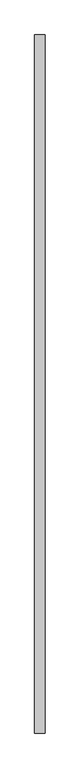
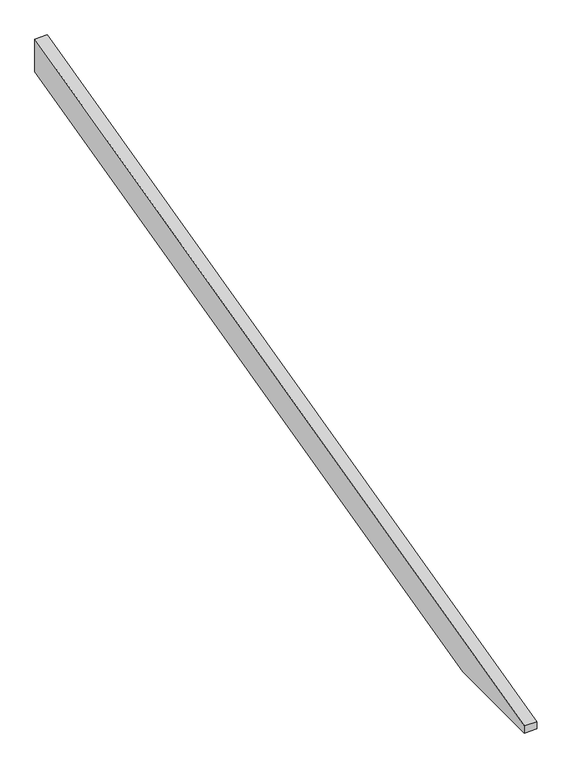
"""IFC4 building model written with IfcOpenShell, lengths in millimetres: proxy geometry, Modelos genéricos 149 : Modelos genéricos 12."""

from ifc_helpers import new_model, si_unit, frame, origin, place, context, project, spatial, polyline, outline, extrude, source, transform, mapped, element, save


def generic_models_f04222a2(model_context):
    return source(origin(), model_context, "Body", "SweptSolid", [
        extrude(outline(polyline([(-2181.3761835, 3197.4798401), (1878.6238165, 4209.7515316), (1878.6238165, 4044.8533509), (-1670.3291324, 3160.0), (-2181.3761835, 3160.0), (-2181.3761835, 3197.4798401)])), frame((12873.4472467, 0.0, 0.0), z_axis=(1.0, 0.0, 0.0), x_axis=(0.0, 1.0, 0.0)), (0.0, 0.0, 1.0), 60.0),
    ])


if __name__ == "__main__":
    model = new_model("IFC4")
    model_context = context("Model", 3, world=origin())
    ifc_project = project(units=[si_unit("LENGTHUNIT", "METRE", prefix="MILLI")], contexts=[model_context])
    site = spatial("IfcSite", under=ifc_project)
    building = spatial("IfcBuilding", under=site)
    placement = place(None, origin())
    generic_models_shape = generic_models_f04222a2(model_context)
    element("IfcBuildingElementProxy", 1, Name="Modelos genéricos 149 : Modelos genéricos 12", ObjectType="Modelos genéricos 149 : Modelos genéricos 12", at=placement, inside=building, context=model_context, shape_type="MappedRepresentation", body=[
        mapped(generic_models_shape, transform((0.0, 0.0, 0.0), x_axis=(1.0, 0.0, 0.0), y_axis=(0.0, 1.0, 0.0), z_axis=(0.0, 0.0, 1.0))),
    ])
    save(model, "model.ifc")
